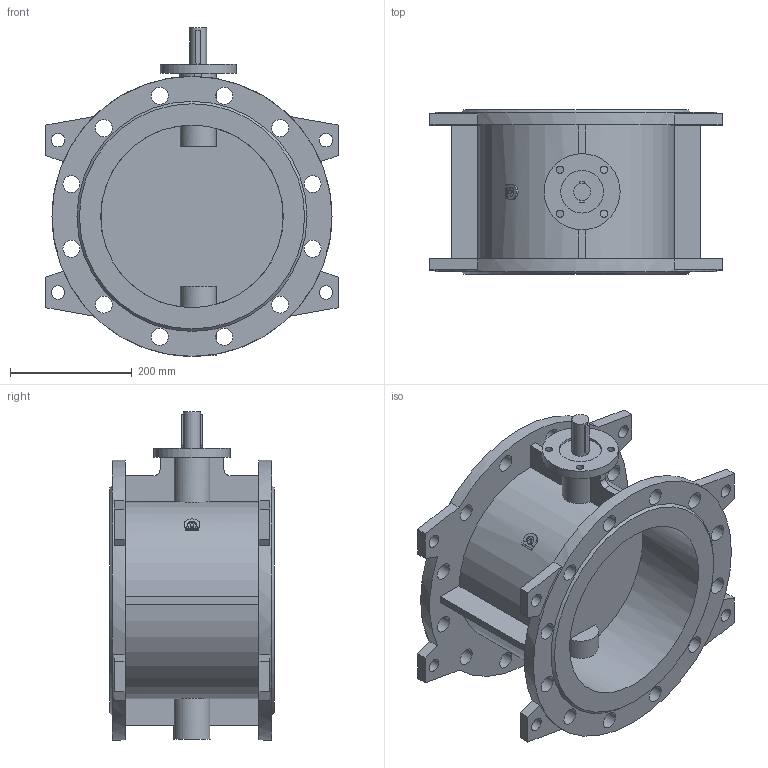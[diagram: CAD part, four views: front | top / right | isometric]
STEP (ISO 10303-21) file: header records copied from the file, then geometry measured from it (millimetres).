
FILE_DESCRIPTION(('STEP AP203'), '1');
FILE_NAME('Çàòâîð 023F.Z DN300 PN16 ïîä èñïîëíèòåëüíûé ìåõàíèçì', '', ('UNSPECIFIED'), ('UNSPECIFIED'), 'ASCON STEP Converter 1.6', 'ASCON Math Kernel', '');
FILE_SCHEMA(('CONFIG_CONTROL_DESIGN'));
Length unit declared in the file: millimetre
Bounding box: 480 x 270 x 540 mm (x, y, z)
Volume: 10544553.9 mm3; surface area: 1210368.1 mm2
Topology: 1 solids, 1 shells, 150 faces, 405 edges, 270 vertices
Faces by surface type: plane 85, cylinder 63, cone 2
Full cylindrical faces by diameter (mm): 12 x4, 22 x8, 28 x25, 60 x1, 70 x1, 125 x1, 300 x2, 460 x2
Entity records: 7042 total; most frequent: CARTESIAN_POINT 1962, DIRECTION 782, ORIENTED_EDGE 716, EDGE_CURVE 358, AXIS2_PLACEMENT_3D 292, EDGE_LOOP 282, VERTEX_POINT 270, LINE 198
